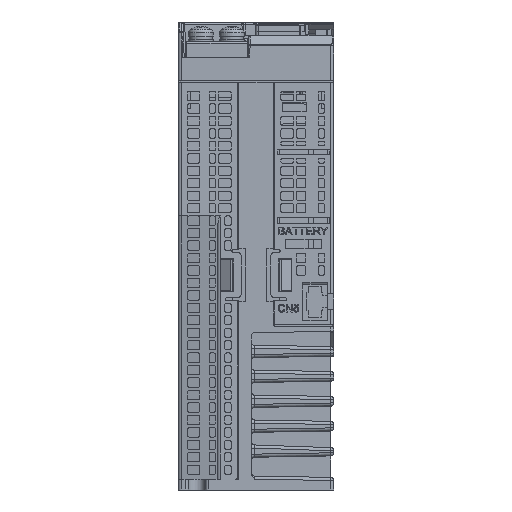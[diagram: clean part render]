
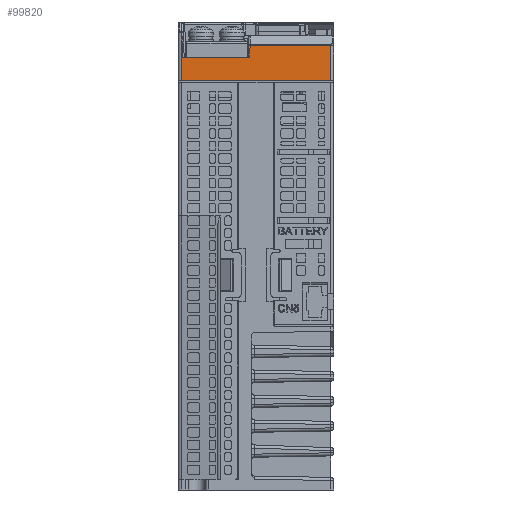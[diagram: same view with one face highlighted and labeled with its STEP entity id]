
A CAD part, front view. The second image highlights one B-rep face of the part: STEP entity #99820.
In plain terms, the highlighted planar face has unit normal (0, -1, 0).
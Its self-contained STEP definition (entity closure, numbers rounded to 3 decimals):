
#80873=CARTESIAN_POINT('',(9.099,-139.,142.793));
#80874=VERTEX_POINT('',#80873);
#99463=CARTESIAN_POINT('',(-13.,-139.,146.793));
#99464=VERTEX_POINT('',#99463);
#99472=CARTESIAN_POINT('',(-12.792,-139.,146.793));
#99473=VERTEX_POINT('',#99472);
#99474=CARTESIAN_POINT('',(-13.,-139.,146.793));
#99475=DIRECTION('',(1.0,0.0,0.0));
#99476=VECTOR('',#99475,0.208);
#99477=LINE('',#99474,#99476);
#99478=EDGE_CURVE('',#99464,#99473,#99477,.T.);
#99748=CARTESIAN_POINT('',(-12.587,-139.,139.));
#99749=VERTEX_POINT('',#99748);
#99750=CARTESIAN_POINT('',(-12.792,-139.,146.793));
#99751=DIRECTION('',(0.026,0.0,-1.));
#99752=VECTOR('',#99751,7.796);
#99753=LINE('',#99750,#99752);
#99754=EDGE_CURVE('',#99473,#99749,#99753,.T.);
#99767=CARTESIAN_POINT('',(36.,-139.,131.));
#99768=DIRECTION('',(0.0,-1.0,0.0));
#99769=DIRECTION('',(0.0,0.0,-1.0));
#99770=AXIS2_PLACEMENT_3D('',#99767,#99768,#99769);
#99771=PLANE('',#99770);
#99772=ORIENTED_EDGE('',*,*,#99478,.F.);
#99773=CARTESIAN_POINT('',(-13.,-139.,131.5));
#99774=VERTEX_POINT('',#99773);
#99775=CARTESIAN_POINT('',(-13.,-139.,131.5));
#99776=DIRECTION('',(0.0,0.0,1.0));
#99777=VECTOR('',#99776,15.293);
#99778=LINE('',#99775,#99777);
#99779=EDGE_CURVE('',#99774,#99464,#99778,.T.);
#99780=ORIENTED_EDGE('',*,*,#99779,.F.);
#99781=CARTESIAN_POINT('',(35.,-139.,131.5));
#99782=VERTEX_POINT('',#99781);
#99783=CARTESIAN_POINT('',(-13.,-139.,131.5));
#99784=DIRECTION('',(1.0,0.0,0.0));
#99785=VECTOR('',#99784,48.);
#99786=LINE('',#99783,#99785);
#99787=EDGE_CURVE('',#99774,#99782,#99786,.T.);
#99788=ORIENTED_EDGE('',*,*,#99787,.T.);
#99789=CARTESIAN_POINT('',(35.,-139.,142.793));
#99790=VERTEX_POINT('',#99789);
#99791=CARTESIAN_POINT('',(35.,-139.,142.793));
#99792=DIRECTION('',(0.0,0.0,-1.0));
#99793=VECTOR('',#99792,11.293);
#99794=LINE('',#99791,#99793);
#99795=EDGE_CURVE('',#99790,#99782,#99794,.T.);
#99796=ORIENTED_EDGE('',*,*,#99795,.F.);
#99797=CARTESIAN_POINT('',(9.099,-139.,142.793));
#99798=DIRECTION('',(1.0,0.0,0.0));
#99799=VECTOR('',#99798,25.901);
#99800=LINE('',#99797,#99799);
#99801=EDGE_CURVE('',#80874,#99790,#99800,.T.);
#99802=ORIENTED_EDGE('',*,*,#99801,.F.);
#99803=CARTESIAN_POINT('',(9.,-139.,139.));
#99804=VERTEX_POINT('',#99803);
#99805=CARTESIAN_POINT('',(9.,-139.,139.));
#99806=DIRECTION('',(0.026,0.0,1.));
#99807=VECTOR('',#99806,3.794);
#99808=LINE('',#99805,#99807);
#99809=EDGE_CURVE('',#99804,#80874,#99808,.T.);
#99810=ORIENTED_EDGE('',*,*,#99809,.F.);
#99811=CARTESIAN_POINT('',(9.,-139.,139.));
#99812=DIRECTION('',(-1.0,0.0,0.0));
#99813=VECTOR('',#99812,21.588);
#99814=LINE('',#99811,#99813);
#99815=EDGE_CURVE('',#99804,#99749,#99814,.T.);
#99816=ORIENTED_EDGE('',*,*,#99815,.T.);
#99817=ORIENTED_EDGE('',*,*,#99754,.F.);
#99818=EDGE_LOOP('',(#99772,#99780,#99788,#99796,#99802,#99810,#99816,#99817));
#99819=FACE_OUTER_BOUND('',#99818,.T.);
#99820=ADVANCED_FACE('',(#99819),#99771,.T.);
